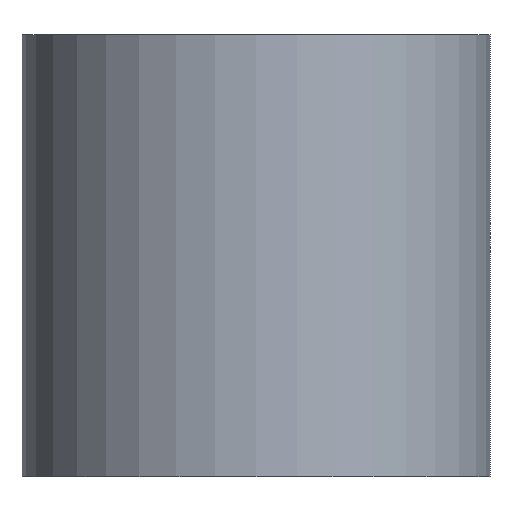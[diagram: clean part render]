
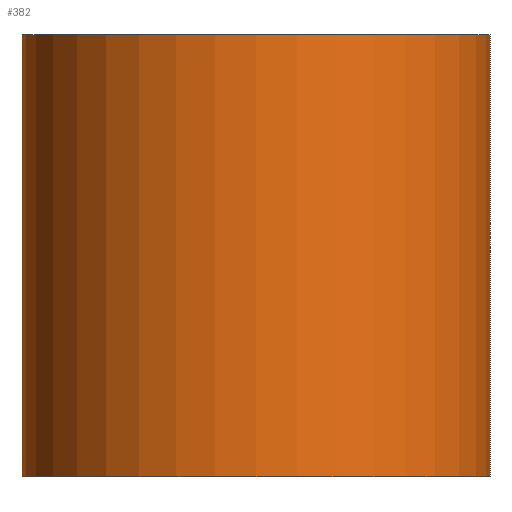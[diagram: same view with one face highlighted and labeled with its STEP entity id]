
A CAD part, front view. The second image highlights one B-rep face of the part: STEP entity #382.
In plain terms, the highlighted cylindrical face has radius 9 mm (diameter 18 mm), a full revolution.
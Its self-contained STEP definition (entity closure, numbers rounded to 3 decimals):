
#275=CARTESIAN_POINT('',(0.0,0.0,0.0));
#276=DIRECTION('',(0.0,0.0,1.0));
#277=DIRECTION('',(-1.0,0.0,0.0));
#278=AXIS2_PLACEMENT_3D('',#275,#276,#277);
#279=CYLINDRICAL_SURFACE('',#278,9.0);
#280=CARTESIAN_POINT('',(9.0,0.,8.5));
#281=VERTEX_POINT('',#280);
#282=CARTESIAN_POINT('',(0.0,0.0,8.5));
#283=DIRECTION('',(0.0,0.0,-1.0));
#284=DIRECTION('',(-1.0,0.0,0.0));
#285=AXIS2_PLACEMENT_3D('',#282,#283,#284);
#286=CIRCLE('',#285,9.0);
#287=EDGE_CURVE('',#281,#281,#286,.T.);
#288=ORIENTED_EDGE('',*,*,#287,.T.);
#289=EDGE_LOOP('',(#288));
#290=FACE_OUTER_BOUND('',#289,.T.);
#291=CARTESIAN_POINT('',(9.0,0.,-8.5));
#292=VERTEX_POINT('',#291);
#293=CARTESIAN_POINT('',(0.0,0.0,-8.5));
#294=DIRECTION('',(0.0,0.0,1.0));
#295=DIRECTION('',(-1.0,0.0,0.0));
#296=AXIS2_PLACEMENT_3D('',#293,#294,#295);
#297=CIRCLE('',#296,9.0);
#298=EDGE_CURVE('',#292,#292,#297,.T.);
#299=ORIENTED_EDGE('',*,*,#298,.T.);
#300=EDGE_LOOP('',(#299));
#301=FACE_BOUND('',#300,.T.);
#302=CARTESIAN_POINT('',(-5.,7.483,0.0));
#303=VERTEX_POINT('',#302);
#304=CARTESIAN_POINT('',(-5.,7.483,0.0));
#305=CARTESIAN_POINT('',(-5.,7.483,0.519));
#306=CARTESIAN_POINT('',(-4.916,7.541,1.059));
#307=CARTESIAN_POINT('',(-4.748,7.646,1.568));
#308=CARTESIAN_POINT('',(-4.553,7.767,2.159));
#309=CARTESIAN_POINT('',(-4.244,7.947,2.71));
#310=CARTESIAN_POINT('',(-3.867,8.127,3.17));
#311=CARTESIAN_POINT('',(-3.666,8.223,3.415));
#312=CARTESIAN_POINT('',(-3.452,8.316,3.631));
#313=CARTESIAN_POINT('',(-3.209,8.408,3.834));
#314=CARTESIAN_POINT('',(-2.79,8.568,4.185));
#315=CARTESIAN_POINT('',(-2.291,8.721,4.482));
#316=CARTESIAN_POINT('',(-1.752,8.828,4.683));
#317=CARTESIAN_POINT('',(-1.326,8.912,4.842));
#318=CARTESIAN_POINT('',(-0.876,8.968,4.943));
#319=CARTESIAN_POINT('',(-0.431,8.99,4.981));
#320=CARTESIAN_POINT('',(-0.108,9.005,5.009));
#321=CARTESIAN_POINT('',(0.209,9.003,5.006));
#322=CARTESIAN_POINT('',(0.533,8.984,4.971));
#323=CARTESIAN_POINT('',(1.099,8.951,4.911));
#324=CARTESIAN_POINT('',(1.669,8.86,4.748));
#325=CARTESIAN_POINT('',(2.184,8.731,4.498));
#326=CARTESIAN_POINT('',(2.502,8.651,4.343));
#327=CARTESIAN_POINT('',(2.8,8.558,4.156));
#328=CARTESIAN_POINT('',(3.069,8.46,3.947));
#329=CARTESIAN_POINT('',(3.25,8.395,3.806));
#330=CARTESIAN_POINT('',(3.417,8.328,3.657));
#331=CARTESIAN_POINT('',(3.572,8.261,3.499));
#332=CARTESIAN_POINT('',(3.977,8.086,3.085));
#333=CARTESIAN_POINT('',(4.333,7.894,2.572));
#334=CARTESIAN_POINT('',(4.581,7.747,2.004));
#335=CARTESIAN_POINT('',(4.764,7.639,1.585));
#336=CARTESIAN_POINT('',(4.89,7.556,1.136));
#337=CARTESIAN_POINT('',(4.953,7.515,0.685));
#338=CARTESIAN_POINT('',(4.99,7.49,0.413));
#339=CARTESIAN_POINT('',(5.005,7.48,0.144));
#340=CARTESIAN_POINT('',(4.998,7.484,-0.126));
#341=CARTESIAN_POINT('',(4.985,7.493,-0.652));
#342=CARTESIAN_POINT('',(4.885,7.562,-1.194));
#343=CARTESIAN_POINT('',(4.702,7.674,-1.702));
#344=CARTESIAN_POINT('',(4.49,7.804,-2.285));
#345=CARTESIAN_POINT('',(4.168,7.988,-2.825));
#346=CARTESIAN_POINT('',(3.782,8.167,-3.271));
#347=CARTESIAN_POINT('',(3.604,8.249,-3.476));
#348=CARTESIAN_POINT('',(3.417,8.329,-3.661));
#349=CARTESIAN_POINT('',(3.207,8.409,-3.836));
#350=CARTESIAN_POINT('',(2.785,8.57,-4.189));
#351=CARTESIAN_POINT('',(2.281,8.724,-4.487));
#352=CARTESIAN_POINT('',(1.739,8.83,-4.688));
#353=CARTESIAN_POINT('',(1.232,8.93,-4.876));
#354=CARTESIAN_POINT('',(0.69,8.989,-4.98));
#355=CARTESIAN_POINT('',(0.165,8.998,-4.997));
#356=CARTESIAN_POINT('',(-0.086,9.003,-5.006));
#357=CARTESIAN_POINT('',(-0.336,8.997,-4.995));
#358=CARTESIAN_POINT('',(-0.589,8.981,-4.965));
#359=CARTESIAN_POINT('',(-1.142,8.944,-4.9));
#360=CARTESIAN_POINT('',(-1.696,8.854,-4.737));
#361=CARTESIAN_POINT('',(-2.199,8.727,-4.49));
#362=CARTESIAN_POINT('',(-2.551,8.639,-4.318));
#363=CARTESIAN_POINT('',(-2.878,8.533,-4.106));
#364=CARTESIAN_POINT('',(-3.168,8.424,-3.868));
#365=CARTESIAN_POINT('',(-3.416,8.331,-3.666));
#366=CARTESIAN_POINT('',(-3.633,8.237,-3.45));
#367=CARTESIAN_POINT('',(-3.837,8.141,-3.206));
#368=CARTESIAN_POINT('',(-4.196,7.972,-2.776));
#369=CARTESIAN_POINT('',(-4.496,7.8,-2.264));
#370=CARTESIAN_POINT('',(-4.697,7.677,-1.713));
#371=CARTESIAN_POINT('',(-4.878,7.566,-1.217));
#372=CARTESIAN_POINT('',(-4.979,7.497,-0.689));
#373=CARTESIAN_POINT('',(-4.997,7.485,-0.174));
#374=CARTESIAN_POINT('',(-4.999,7.484,-0.116));
#375=CARTESIAN_POINT('',(-5.,7.483,-0.058));
#376=CARTESIAN_POINT('',(-5.,7.483,0.));
#377=B_SPLINE_CURVE_WITH_KNOTS('',3,(#304,#305,#306,#307,#308,#309,#310,#311,#312,#313,#314,#315,#316,#317,#318,#319,#320,#321,#322,#323,#324,#325,#326,#327,#328,#329,#330,#331,#332,#333,#334,#335,#336,#337,#338,#339,#340,#341,#342,#343,#344,#345,#346,#347,#348,#349,#350,#351,#352,#353,#354,#355,#356,#357,#358,#359,#360,#361,#362,#363,#364,#365,#366,#367,#368,#369,#370,#371,#372,#373,#374,#375,#376),.UNSPECIFIED.,.T.,.U.,(4,3,3,3,3,3,3,3,3,3,3,3,3,3,3,3,3,3,3,3,3,3,3,3,4),(0.0,0.156,0.337,0.433,0.599,0.73,0.826,0.993,1.095,1.164,1.345,1.478,1.559,1.716,1.896,1.979,2.147,2.303,2.378,2.54,2.654,2.751,2.922,3.075,3.092),.UNSPECIFIED.);
#378=EDGE_CURVE('',#303,#303,#377,.T.);
#379=ORIENTED_EDGE('',*,*,#378,.F.);
#380=EDGE_LOOP('',(#379));
#381=FACE_BOUND('',#380,.T.);
#382=ADVANCED_FACE('',(#290,#301,#381),#279,.T.);
